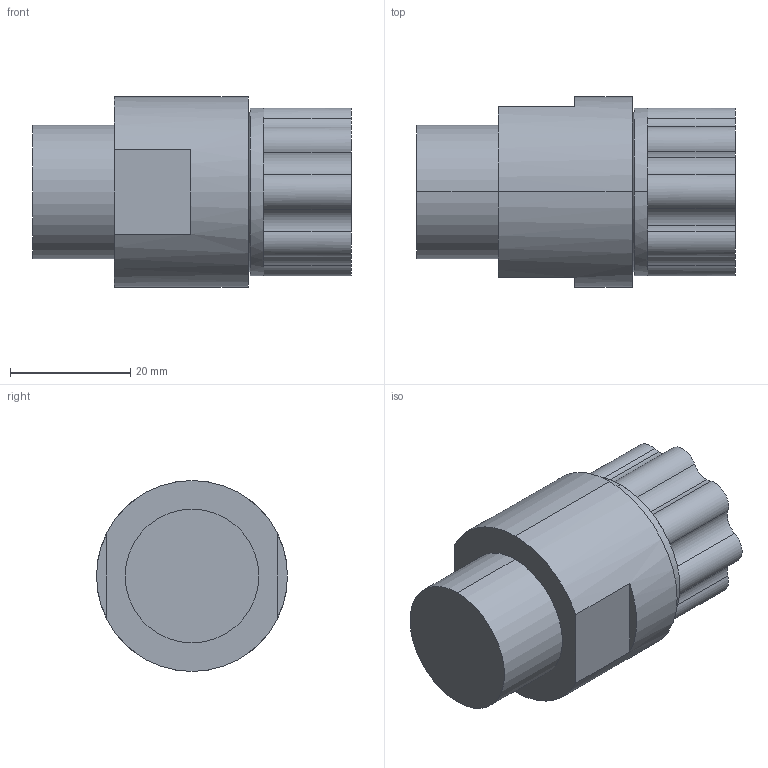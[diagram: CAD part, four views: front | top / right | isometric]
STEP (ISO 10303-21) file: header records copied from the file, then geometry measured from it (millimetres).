
FILE_DESCRIPTION (( 'STEP AP214' ), '1' );
FILE_NAME ('Fitting Synchro-Flare 08.STEP', '2012-09-26T18:01:27', ( '' ), ( '' ), 'SwSTEP 2.0', 'SolidWorks 2012', '' );
FILE_SCHEMA (( 'AUTOMOTIVE_DESIGN' ));
Length unit declared in the file: inch
Products named in the file (1): Fitting Synchro-Flare 08
Bounding box: 53.01 x 31.75 x 31.75 mm (x, y, z)
Volume: 30738 mm3; surface area: 6734.8 mm2
Topology: 1 solids, 1 shells, 49 faces, 118 edges, 75 vertices
Faces by surface type: cylinder 29, plane 18, cone 2
Entity records: 1542 total; most frequent: DIRECTION 297, CARTESIAN_POINT 243, ORIENTED_EDGE 236, AXIS2_PLACEMENT_3D 129, EDGE_CURVE 118, CIRCLE 79, VERTEX_POINT 75, EDGE_LOOP 53
